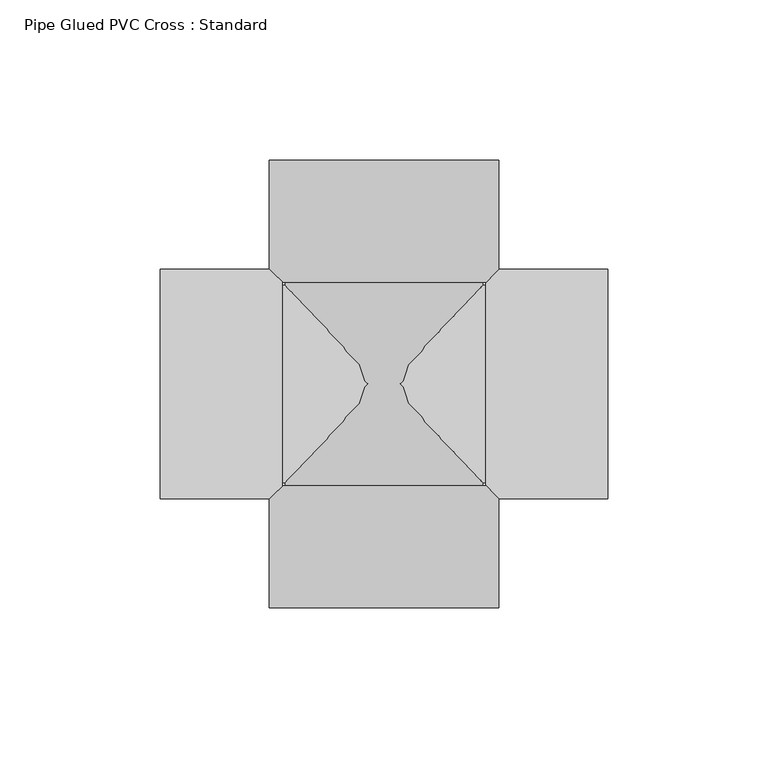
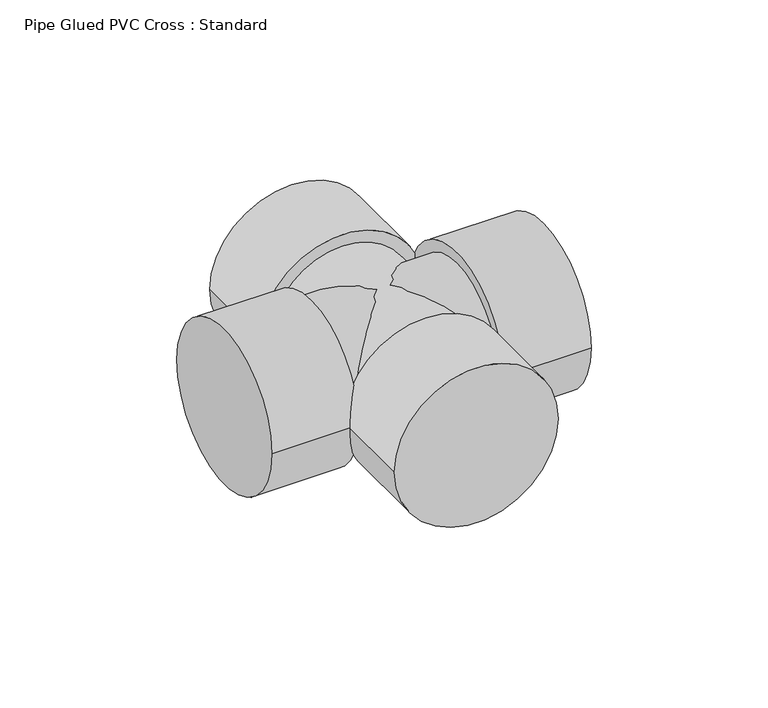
"""IFC4 building model written with IfcOpenShell, lengths in millimetres: pipe fitting geometry, Pipe Glued PVC Cross : Standard."""

from ifc_helpers import new_model, si_unit, point, frame, origin, origin_2d, place, context, project, spatial, circle_curve, trimmed, segment, composite_curve, outline, extrude, source, transform, mapped, element, save


def pipe_glued_pvc_cross_standard_87f1f047(model_context):
    return source(origin(), model_context, "Body", "SweptSolid", [
        extrude(outline(composite_curve([segment(trimmed(circle_curve(origin_2d(), 35.8521), [point((-35.8521, 0.0))], [point((35.8521, 0.0))], False, "CARTESIAN"), True, "CONTINUOUS"), segment(trimmed(circle_curve(origin_2d(), 35.8521), [point((35.8521, 0.0))], [point((-35.8521, 0.0))], False, "CARTESIAN"), True, "CONTINUOUS")], self_intersect=False)), frame((-69.85, 0.0, 0.0), z_axis=(1.0, 0.0, 0.0), x_axis=(0.0, 1.0, 0.0)), (0.0, 0.0, 1.0), 38.1),
        extrude(outline(composite_curve([segment(trimmed(circle_curve(origin_2d(), 35.8521), [point((0.0, -35.8521))], [point((0.0, 35.8521))], False, "CARTESIAN"), True, "CONTINUOUS"), segment(trimmed(circle_curve(origin_2d(), 35.8521), [point((0.0, 35.8521))], [point((0.0, -35.8521))], False, "CARTESIAN"), True, "CONTINUOUS")], self_intersect=False)), frame((0.0, 31.75, 0.0), z_axis=(0.0, 1.0, 0.0), x_axis=(0.0, 0.0, 1.0)), (0.0, 0.0, 1.0), 38.1),
        extrude(outline(composite_curve([segment(trimmed(circle_curve(origin_2d(), 35.8521), [point((0.0, -35.8521))], [point((0.0, 35.8521))], False, "CARTESIAN"), True, "CONTINUOUS"), segment(trimmed(circle_curve(origin_2d(), 35.8521), [point((0.0, 35.8521))], [point((0.0, -35.8521))], False, "CARTESIAN"), True, "CONTINUOUS")], self_intersect=False)), frame((0.0, -69.85, 0.0), z_axis=(0.0, 1.0, 0.0), x_axis=(0.0, 0.0, 1.0)), (0.0, 0.0, 1.0), 38.1),
        extrude(outline(composite_curve([segment(trimmed(circle_curve(origin_2d(), 30.8737), [point((0.0, -30.8737))], [point((0.0, 30.8737))], False, "CARTESIAN"), True, "CONTINUOUS"), segment(trimmed(circle_curve(origin_2d(), 30.8737), [point((0.0, 30.8737))], [point((0.0, -30.8737))], False, "CARTESIAN"), True, "CONTINUOUS")], self_intersect=False)), frame((0.0, -31.75, 0.0), z_axis=(0.0, 1.0, 0.0), x_axis=(0.0, 0.0, 1.0)), (0.0, 0.0, 1.0), 63.5),
        extrude(outline(composite_curve([segment(trimmed(circle_curve(origin_2d(), 30.8737), [point((-30.8737, 0.0))], [point((30.8737, 0.0))], False, "CARTESIAN"), True, "CONTINUOUS"), segment(trimmed(circle_curve(origin_2d(), 30.8737), [point((30.8737, 0.0))], [point((-30.8737, 0.0))], False, "CARTESIAN"), True, "CONTINUOUS")], self_intersect=False)), frame((-31.75, 0.0, 0.0), z_axis=(1.0, 0.0, 0.0), x_axis=(0.0, 1.0, 0.0)), (0.0, 0.0, 1.0), 63.5),
        extrude(outline(composite_curve([segment(trimmed(circle_curve(origin_2d(), 35.8521), [point((-35.8521, 0.0))], [point((35.8521, 0.0))], False, "CARTESIAN"), True, "CONTINUOUS"), segment(trimmed(circle_curve(origin_2d(), 35.8521), [point((35.8521, 0.0))], [point((-35.8521, 0.0))], False, "CARTESIAN"), True, "CONTINUOUS")], self_intersect=False)), frame((31.75, 0.0, 0.0), z_axis=(1.0, 0.0, 0.0), x_axis=(0.0, 1.0, 0.0)), (0.0, 0.0, 1.0), 38.1),
        extrude(outline(composite_curve([segment(trimmed(circle_curve(origin_2d(), 35.8521), [point((-35.8521, 0.0))], [point((35.8521, 0.0))], False, "CARTESIAN"), True, "CONTINUOUS"), segment(trimmed(circle_curve(origin_2d(), 35.8521), [point((35.8521, 0.0))], [point((-35.8521, 0.0))], False, "CARTESIAN"), True, "CONTINUOUS")], self_intersect=False)), frame((-69.85, 0.0, 0.0), z_axis=(1.0, 0.0, 0.0), x_axis=(0.0, 1.0, 0.0)), (0.0, 0.0, 1.0), 38.1),
        extrude(outline(composite_curve([segment(trimmed(circle_curve(origin_2d(), 35.8521), [point((-35.8521, 0.0))], [point((35.8521, 0.0))], False, "CARTESIAN"), True, "CONTINUOUS"), segment(trimmed(circle_curve(origin_2d(), 35.8521), [point((35.8521, 0.0))], [point((-35.8521, 0.0))], False, "CARTESIAN"), True, "CONTINUOUS")], self_intersect=False)), frame((31.75, 0.0, 0.0), z_axis=(1.0, 0.0, 0.0), x_axis=(0.0, 1.0, 0.0)), (0.0, 0.0, 1.0), 38.1),
        extrude(outline(composite_curve([segment(trimmed(circle_curve(origin_2d(), 30.8737), [point((-30.8737, 0.0))], [point((30.8737, 0.0))], False, "CARTESIAN"), True, "CONTINUOUS"), segment(trimmed(circle_curve(origin_2d(), 30.8737), [point((30.8737, 0.0))], [point((-30.8737, 0.0))], False, "CARTESIAN"), True, "CONTINUOUS")], self_intersect=False)), frame((-31.75, 0.0, 0.0), z_axis=(1.0, 0.0, 0.0), x_axis=(0.0, 1.0, 0.0)), (0.0, 0.0, 1.0), 63.5),
        extrude(outline(composite_curve([segment(trimmed(circle_curve(origin_2d(), 30.8737), [point((0.0, -30.8737))], [point((0.0, 30.8737))], False, "CARTESIAN"), True, "CONTINUOUS"), segment(trimmed(circle_curve(origin_2d(), 30.8737), [point((0.0, 30.8737))], [point((0.0, -30.8737))], False, "CARTESIAN"), True, "CONTINUOUS")], self_intersect=False)), frame((0.0, -31.75, 0.0), z_axis=(0.0, 1.0, 0.0), x_axis=(0.0, 0.0, 1.0)), (0.0, 0.0, 1.0), 63.5),
        extrude(outline(composite_curve([segment(trimmed(circle_curve(origin_2d(), 35.8521), [point((0.0, -35.8521))], [point((0.0, 35.8521))], False, "CARTESIAN"), True, "CONTINUOUS"), segment(trimmed(circle_curve(origin_2d(), 35.8521), [point((0.0, 35.8521))], [point((0.0, -35.8521))], False, "CARTESIAN"), True, "CONTINUOUS")], self_intersect=False)), frame((0.0, 31.75, 0.0), z_axis=(0.0, 1.0, 0.0), x_axis=(0.0, 0.0, 1.0)), (0.0, 0.0, 1.0), 38.1),
        extrude(outline(composite_curve([segment(trimmed(circle_curve(origin_2d(), 35.8521), [point((0.0, -35.8521))], [point((0.0, 35.8521))], False, "CARTESIAN"), True, "CONTINUOUS"), segment(trimmed(circle_curve(origin_2d(), 35.8521), [point((0.0, 35.8521))], [point((0.0, -35.8521))], False, "CARTESIAN"), True, "CONTINUOUS")], self_intersect=False)), frame((0.0, -69.85, 0.0), z_axis=(0.0, 1.0, 0.0), x_axis=(0.0, 0.0, 1.0)), (0.0, 0.0, 1.0), 38.1),
    ])


if __name__ == "__main__":
    model = new_model("IFC4")
    model_context = context("Model", 3, world=origin())
    ifc_project = project(units=[si_unit("LENGTHUNIT", "METRE", prefix="MILLI")], contexts=[model_context])
    site = spatial("IfcSite", under=ifc_project)
    building = spatial("IfcBuilding", under=site)
    placement = place(None, origin())
    pipe_glued_pvc_cross_standard_shape = pipe_glued_pvc_cross_standard_87f1f047(model_context)
    element("IfcPipeFitting", 1, ObjectType="Pipe Glued PVC Cross : Standard", at=placement, inside=building, context=model_context, shape_type="MappedRepresentation", body=[
        mapped(pipe_glued_pvc_cross_standard_shape, transform((0.0, 0.0, 0.0), x_axis=(1.0, 0.0, 0.0), y_axis=(0.0, 1.0, 0.0), z_axis=(0.0, 0.0, 1.0))),
    ])
    save(model, "model.ifc")
